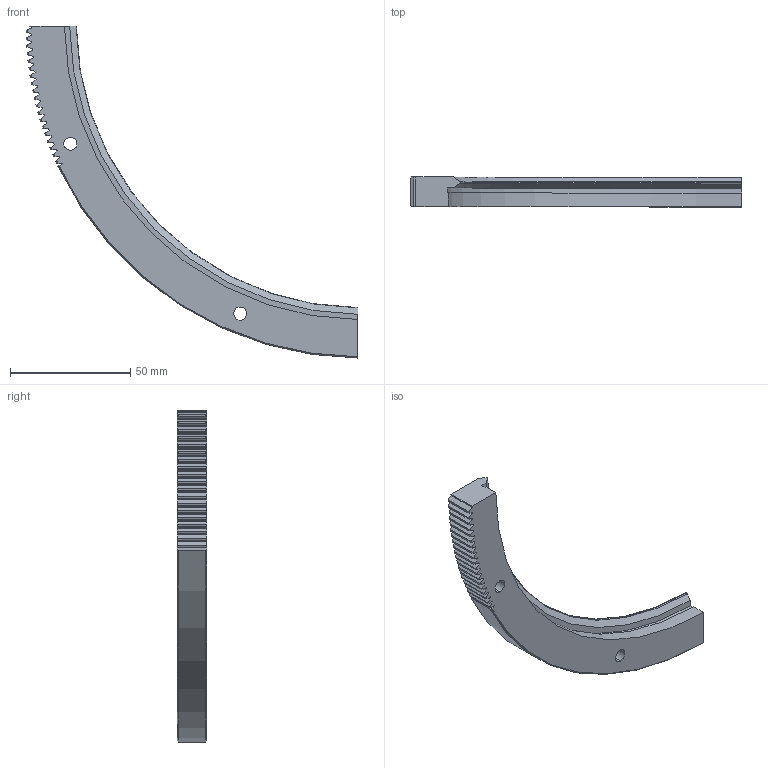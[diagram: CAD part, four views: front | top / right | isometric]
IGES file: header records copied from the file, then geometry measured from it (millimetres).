
Start section: 3D InterOp IGES (v. 2020 1.0.1), Spatial Corp. Copyright (c) 1999-2017.
Global section: file name: ris_278_r90_p.igs; native system: Spatial Corp.; preprocessor: 3D InterOp ACIS/IGES; author: TraceParts; organization: TraceParts S.A.; date: 20220624.060650; units: millimetre
Bounding box: 137.97 x 12.25 x 138 mm (x, y, z)
Surface area: 14452.8 mm2 (no closed solid volume)
Topology: 0 solids, 0 shells, 161 faces, 942 edges, 942 vertices
Faces by surface type: extrusion 106, revolution 55
